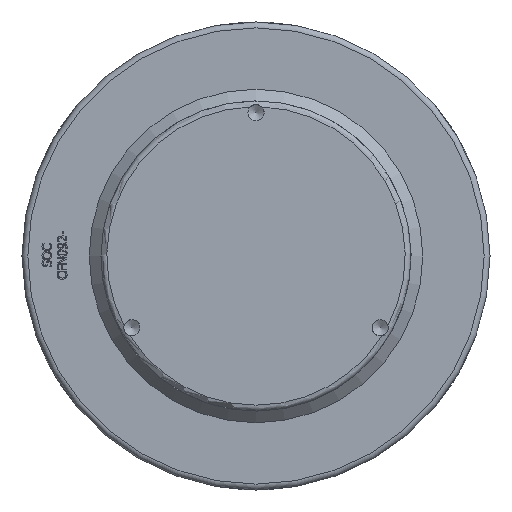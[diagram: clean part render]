
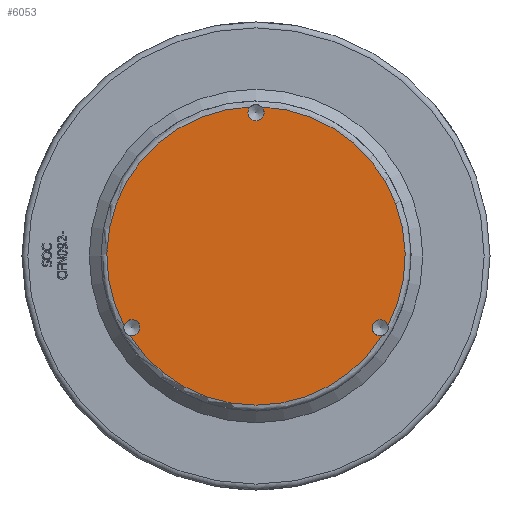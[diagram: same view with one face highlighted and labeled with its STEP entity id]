
A CAD part, front view. The second image highlights one B-rep face of the part: STEP entity #6053.
In plain terms, the highlighted planar face has unit normal (0, -1, 0) as drawn and (0, 1, 0) by its records, which use the part's own axes.
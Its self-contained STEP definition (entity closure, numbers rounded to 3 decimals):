
#1185=PLANE('',#6469);
#1812=FACE_OUTER_BOUND('',#2171,.T.);
#2171=EDGE_LOOP('',(#4184,#4185,#4186,#4187,#4188,#4189));
#2574=CIRCLE('',#6459,6.918);
#2576=CIRCLE('',#6463,6.918);
#2577=CIRCLE('',#6465,127.5);
#2578=CIRCLE('',#6466,127.5);
#2579=CIRCLE('',#6467,127.5);
#2581=CIRCLE('',#6470,6.918);
#2602=VERTEX_POINT('',#7478);
#2603=VERTEX_POINT('',#7479);
#2605=VERTEX_POINT('',#7499);
#2606=VERTEX_POINT('',#7500);
#2607=VERTEX_POINT('',#7517);
#2608=VERTEX_POINT('',#7519);
#3237=EDGE_CURVE('',#2603,#2602,#2574,.T.);
#3240=EDGE_CURVE('',#2606,#2605,#2576,.T.);
#3241=EDGE_CURVE('',#2603,#2607,#2577,.T.);
#3243=EDGE_CURVE('',#2608,#2605,#2578,.T.);
#3244=EDGE_CURVE('',#2606,#2602,#2579,.T.);
#3246=EDGE_CURVE('',#2608,#2607,#2581,.T.);
#4184=ORIENTED_EDGE('',*,*,#3237,.T.);
#4185=ORIENTED_EDGE('',*,*,#3244,.F.);
#4186=ORIENTED_EDGE('',*,*,#3240,.T.);
#4187=ORIENTED_EDGE('',*,*,#3243,.F.);
#4188=ORIENTED_EDGE('',*,*,#3246,.T.);
#4189=ORIENTED_EDGE('',*,*,#3241,.F.);
#6053=ADVANCED_FACE('',(#1812),#1185,.T.);
#6459=AXIS2_PLACEMENT_3D('',#7494,#6645,#6646);
#6463=AXIS2_PLACEMENT_3D('',#7515,#6653,#6654);
#6465=AXIS2_PLACEMENT_3D('',#7518,#6657,#6658);
#6466=AXIS2_PLACEMENT_3D('',#7532,#6659,#6660);
#6467=AXIS2_PLACEMENT_3D('',#7533,#6661,#6662);
#6469=AXIS2_PLACEMENT_3D('',#7536,#6665,#6666);
#6470=AXIS2_PLACEMENT_3D('',#7537,#6667,#6668);
#6645=DIRECTION('center_axis',(0.,-1.,0.));
#6646=DIRECTION('ref_axis',(-0.5,0.,-0.866));
#6653=DIRECTION('center_axis',(0.,-1.,0.));
#6654=DIRECTION('ref_axis',(-0.5,0.,0.866));
#6657=DIRECTION('center_axis',(0.,-1.,0.));
#6658=DIRECTION('ref_axis',(-1.,0.,0.));
#6659=DIRECTION('center_axis',(0.,-1.,0.));
#6660=DIRECTION('ref_axis',(-1.,0.,0.));
#6661=DIRECTION('center_axis',(0.,-1.,0.));
#6662=DIRECTION('ref_axis',(-1.,0.,0.));
#6665=DIRECTION('center_axis',(0.,1.,0.));
#6666=DIRECTION('ref_axis',(0.,0.,1.));
#6667=DIRECTION('center_axis',(0.,-1.,0.));
#6668=DIRECTION('ref_axis',(1.,0.,0.));
#7478=CARTESIAN_POINT('',(107.899,241.5,-67.926));
#7479=CARTESIAN_POINT('',(112.775,241.5,-59.481));
#7494=CARTESIAN_POINT('Origin',(106.088,241.5,-61.25));
#7499=CARTESIAN_POINT('',(-112.775,241.5,-59.481));
#7500=CARTESIAN_POINT('',(-107.899,241.5,-67.926));
#7515=CARTESIAN_POINT('Origin',(-106.088,241.5,-61.25));
#7517=CARTESIAN_POINT('',(4.876,241.5,127.407));
#7518=CARTESIAN_POINT('Origin',(0.,241.5,0.));
#7519=CARTESIAN_POINT('',(-4.876,241.5,127.407));
#7532=CARTESIAN_POINT('Origin',(0.,241.5,0.));
#7533=CARTESIAN_POINT('Origin',(0.,241.5,0.));
#7536=CARTESIAN_POINT('Origin',(132.5,241.5,0.));
#7537=CARTESIAN_POINT('Origin',(0.,241.5,122.5));
